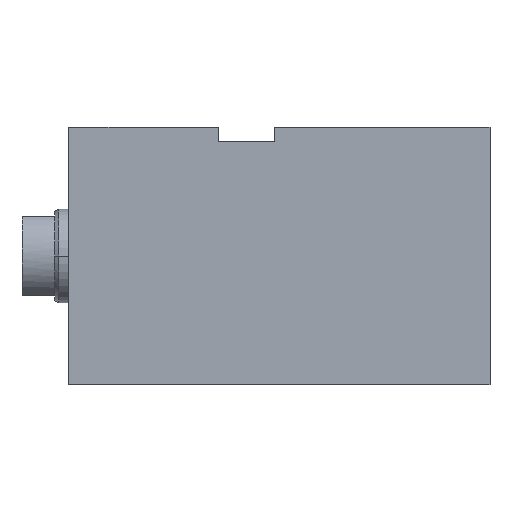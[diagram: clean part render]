
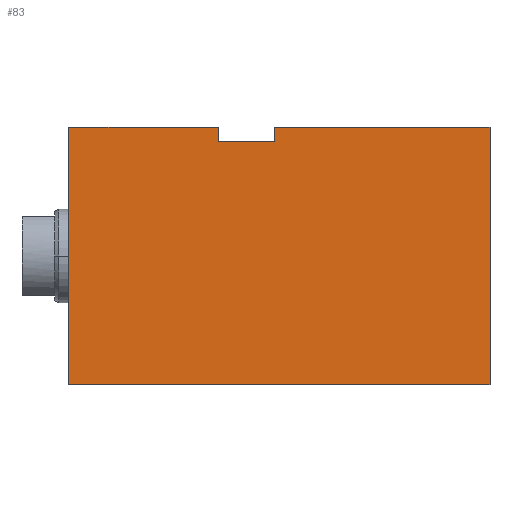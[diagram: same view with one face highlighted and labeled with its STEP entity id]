
A CAD part, left-side view. The second image highlights one B-rep face of the part: STEP entity #83.
In plain terms, the highlighted planar face has unit normal (-1, 0, 0).
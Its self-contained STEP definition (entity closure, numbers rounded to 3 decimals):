
#19 = VECTOR ( 'NONE', #2032, 1000. ) ;
#83 = ADVANCED_FACE ( 'NONE', ( #2019 ), #2334, .F. ) ;
#133 = EDGE_CURVE ( 'NONE', #2685, #426, #1321, .T. ) ;
#154 = CARTESIAN_POINT ( 'NONE',  ( -37.5, 0., 27.5 ) ) ;
#249 = LINE ( 'NONE', #2521, #1455 ) ;
#281 = VERTEX_POINT ( 'NONE', #928 ) ;
#322 = LINE ( 'NONE', #1536, #2168 ) ;
#418 = ORIENTED_EDGE ( 'NONE', *, *, #2423, .T. ) ;
#426 = VERTEX_POINT ( 'NONE', #2929 ) ;
#467 = LINE ( 'NONE', #615, #2322 ) ;
#473 = LINE ( 'NONE', #1048, #2949 ) ;
#496 = VERTEX_POINT ( 'NONE', #2218 ) ;
#508 = VECTOR ( 'NONE', #2033, 1000. ) ;
#582 = VERTEX_POINT ( 'NONE', #1134 ) ;
#585 = DIRECTION ( 'NONE',  ( 0., 0., 1. ) ) ;
#615 = CARTESIAN_POINT ( 'NONE',  ( -37.5, 46., 24.5 ) ) ;
#623 = EDGE_CURVE ( 'NONE', #2971, #1771, #473, .T. ) ;
#779 = DIRECTION ( 'NONE',  ( 0., 0., 1. ) ) ;
#847 = EDGE_CURVE ( 'NONE', #582, #1771, #2365, .T. ) ;
#850 = EDGE_CURVE ( 'NONE', #2498, #496, #2439, .T. ) ;
#928 = CARTESIAN_POINT ( 'NONE',  ( -37.5, 46., 24.5 ) ) ;
#1001 = ORIENTED_EDGE ( 'NONE', *, *, #850, .T. ) ;
#1048 = CARTESIAN_POINT ( 'NONE',  ( -37.5, 0., -27.5 ) ) ;
#1076 = EDGE_CURVE ( 'NONE', #281, #582, #467, .T. ) ;
#1078 = ORIENTED_EDGE ( 'NONE', *, *, #623, .T. ) ;
#1086 = AXIS2_PLACEMENT_3D ( 'NONE', #2391, #2290, #2266 ) ;
#1134 = CARTESIAN_POINT ( 'NONE',  ( -37.5, 46., 27.5 ) ) ;
#1187 = CARTESIAN_POINT ( 'NONE',  ( -37.5, 0., -27.5 ) ) ;
#1232 = CARTESIAN_POINT ( 'NONE',  ( -37.5, 65., -27.5 ) ) ;
#1300 = DIRECTION ( 'NONE',  ( 0., -1., 0. ) ) ;
#1321 = LINE ( 'NONE', #1953, #19 ) ;
#1455 = VECTOR ( 'NONE', #2759, 1000. ) ;
#1494 = LINE ( 'NONE', #1232, #1976 ) ;
#1536 = CARTESIAN_POINT ( 'NONE',  ( -37.5, 65., 27.5 ) ) ;
#1621 = ORIENTED_EDGE ( 'NONE', *, *, #2624, .F. ) ;
#1771 = VERTEX_POINT ( 'NONE', #154 ) ;
#1778 = CARTESIAN_POINT ( 'NONE',  ( -37.5, 90., -27.5 ) ) ;
#1780 = VECTOR ( 'NONE', #2113, 1000. ) ;
#1800 = ORIENTED_EDGE ( 'NONE', *, *, #1076, .F. ) ;
#1953 = CARTESIAN_POINT ( 'NONE',  ( -37.5, 90., -27.5 ) ) ;
#1958 = EDGE_LOOP ( 'NONE', ( #2392, #1800, #2463, #1001, #1621, #2898, #418, #1078 ) ) ;
#1971 = CARTESIAN_POINT ( 'NONE',  ( -37.5, 58., 24.5 ) ) ;
#1976 = VECTOR ( 'NONE', #2185, 1000. ) ;
#2019 = FACE_OUTER_BOUND ( 'NONE', #1958, .T. ) ;
#2032 = DIRECTION ( 'NONE',  ( 0., 0., 1. ) ) ;
#2033 = DIRECTION ( 'NONE',  ( 0., 0., 1. ) ) ;
#2095 = CARTESIAN_POINT ( 'NONE',  ( -37.5, 58., 24.5 ) ) ;
#2107 = CARTESIAN_POINT ( 'NONE',  ( -37.5, 65., 27.5 ) ) ;
#2113 = DIRECTION ( 'NONE',  ( 0., -1., 0. ) ) ;
#2168 = VECTOR ( 'NONE', #1300, 1000. ) ;
#2185 = DIRECTION ( 'NONE',  ( 0., -1., 0. ) ) ;
#2218 = CARTESIAN_POINT ( 'NONE',  ( -37.5, 58., 27.5 ) ) ;
#2266 = DIRECTION ( 'NONE',  ( 0., 0., -1. ) ) ;
#2290 = DIRECTION ( 'NONE',  ( 1., 0., 0. ) ) ;
#2322 = VECTOR ( 'NONE', #779, 1000. ) ;
#2334 = PLANE ( 'NONE',  #1086 ) ;
#2365 = LINE ( 'NONE', #2107, #1780 ) ;
#2391 = CARTESIAN_POINT ( 'NONE',  ( -37.5, 65., -27.5 ) ) ;
#2392 = ORIENTED_EDGE ( 'NONE', *, *, #847, .F. ) ;
#2423 = EDGE_CURVE ( 'NONE', #2685, #2971, #1494, .T. ) ;
#2439 = LINE ( 'NONE', #2095, #508 ) ;
#2463 = ORIENTED_EDGE ( 'NONE', *, *, #2679, .F. ) ;
#2498 = VERTEX_POINT ( 'NONE', #1971 ) ;
#2521 = CARTESIAN_POINT ( 'NONE',  ( -37.5, 58., 24.5 ) ) ;
#2624 = EDGE_CURVE ( 'NONE', #426, #496, #322, .T. ) ;
#2679 = EDGE_CURVE ( 'NONE', #2498, #281, #249, .T. ) ;
#2685 = VERTEX_POINT ( 'NONE', #1778 ) ;
#2759 = DIRECTION ( 'NONE',  ( 0., -1., 0. ) ) ;
#2898 = ORIENTED_EDGE ( 'NONE', *, *, #133, .F. ) ;
#2929 = CARTESIAN_POINT ( 'NONE',  ( -37.5, 90., 27.5 ) ) ;
#2949 = VECTOR ( 'NONE', #585, 1000. ) ;
#2971 = VERTEX_POINT ( 'NONE', #1187 ) ;
